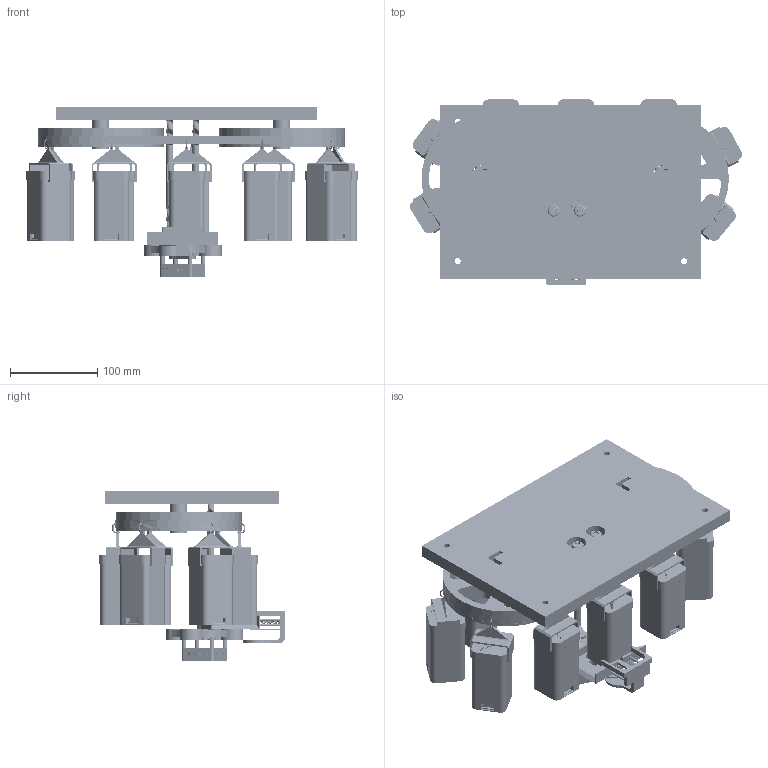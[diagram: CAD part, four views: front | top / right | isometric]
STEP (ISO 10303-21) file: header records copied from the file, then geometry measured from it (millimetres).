
FILE_DESCRIPTION(/* description */ (''),/* implementation_level */ '2;1');
FILE_NAME(/* name */ 'D:/pobrane/pwr/sem 6/konkurs kompozytywni/step/zlozenie v13.step',/* time_stamp */ '2021-05-10T22:36:04+02:00',/* author */ (''),/* organization */ (''),/* preprocessor_version */ 'ST-DEVELOPER v18.1',/* originating_system */ 'Autodesk Translation Framework v10.6.0.1341',/* authorisation */ '');
FILE_SCHEMA (('AUTOMOTIVE_DESIGN { 1 0 10303 214 3 1 1 }'));
Products named in the file (37): zlozenie; koło pasowe; obudowa; koło pasowe_1; 5972K105; kolo; 98455A727; oska; 98541A123; interface_dyspensera; kolowrotek_miarek; lozysko; walek; zawleczka; pierscien_osadczy; suwak_przycisku; 2006N312_302 STAINLESS STEEL CORROSION-RESISTANT COMPRESSION SPRINGS; pasek l=863mm; haczyk; element chwytający; pojemnik na przyprawy; pojemnik na przyprawy_1; pojemnik na przyprawy_2; pojemnik na przyprawy_3; pojemnik na przyprawy_4; pojemnik na przyprawy_5; pojemnik na przyprawy_6; pojemnik na przyprawy_7; pojemnik na przyprawy_8; pojemnik na przyprawy_9; pokrywka; pojemnik; klapa; ogranicznik; sprezyna; 6516K135_CONNECTING ROD; 94645A210_HIGH-STRENGTH STEEL NYLON-INSERT LOCKNUT
Assembly tree (107 placements, depth 4):
  zlozenie
    koło pasowe
      5972K105
      kolo
      98455A727
      oska
      98541A123
    obudowa
    koło pasowe_1
      5972K105
      kolo
      98455A727
      oska
      98541A123
    interface_dyspensera
      kolowrotek_miarek
        lozysko
        walek
      zawleczka
      pierscien_osadczy
      suwak_przycisku
      2006N312_302 STAINLESS STEEL CORROSION-RESISTANT COMPRESSION SPRINGS  x2
    pasek l=863mm
      haczyk  x10
      element chwytający  x10
      pojemnik na przyprawy
        pokrywka
        pojemnik
        klapa
        ogranicznik
        sprezyna
      pojemnik na przyprawy_1
        pokrywka
        pojemnik
        klapa
        ogranicznik
        sprezyna
      pojemnik na przyprawy_2
        pokrywka
        pojemnik
        klapa
        ogranicznik
        sprezyna
      pojemnik na przyprawy_3
        pokrywka
        pojemnik
        klapa
        ogranicznik
        sprezyna
      pojemnik na przyprawy_4
        pokrywka
        pojemnik
        klapa
        ogranicznik
        sprezyna
      pojemnik na przyprawy_5
        pokrywka
        pojemnik
        klapa
        ogranicznik
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Bounding box: 381.41 x 213.12 x 194.8 mm (x, y, z)
Volume: 1932990.5 mm3; surface area: 734638.6 mm2
Topology: 136 solids, 136 shells, 6034 faces, 16065 edges, 10558 vertices
Faces by surface type: bspline 2646, plane 2186, cylinder 990, torus 114, cone 62, sphere 36
Full cylindrical faces by diameter (mm): 1 x1, 1.5 x50, 2 x4, 2.5 x4, 3 x88, 5 x6, 5.4 x10, 5.971 x2, 6.376 x128, 6.779 x8, 7 x4, 8 x134, 8.152 x2, 8.17 x2, 10 x20, 11 x1, 13.681 x2, 15.5 x1, 16.319 x2, 18 x1, 19 x2, 20 x8, 21.4 x2, 22 x5, 26 x4, 30.599 x4, 36.401 x4, 40 x1, 43 x2, 47 x6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
Entity records: 82368 total; most frequent: CARTESIAN_POINT 41040, ORIENTED_EDGE 9696, DIRECTION 5850, EDGE_CURVE 4848, VERTEX_POINT 3232, LINE 2380, VECTOR 2380, EDGE_LOOP 2015
